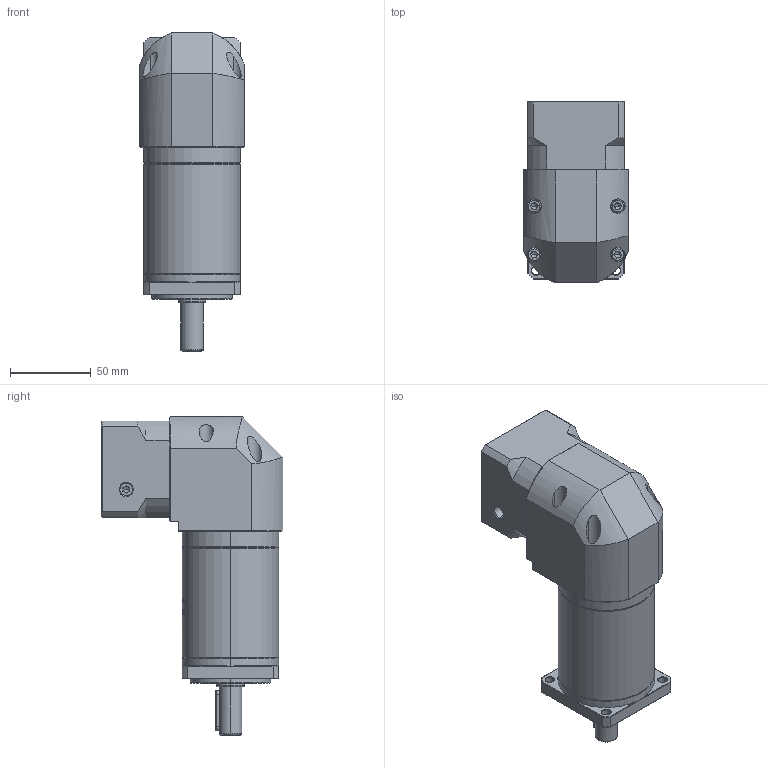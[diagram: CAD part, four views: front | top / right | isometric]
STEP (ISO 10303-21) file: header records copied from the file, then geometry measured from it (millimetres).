
FILE_DESCRIPTION (( 'STEP AP214' ), '1' );
FILE_NAME ('ZFR060-D14-L3-P2-11-50-70-M4.step', '2023-08-17T03:32:05', ( '' ), ( '' ), 'SwSTEP 2.0', 'SolidWorks 2016', '' );
FILE_SCHEMA (( 'AUTOMOTIVE_DESIGN' ));
Length unit declared in the file: millimetre
Products named in the file (1): ZFR060-D14-L3-P2-11-50-70-M4
Bounding box: 65 x 112.7 x 197.5 mm (x, y, z)
Volume: 636401.9 mm3; surface area: 84801.3 mm2
Topology: 5 solids, 6 shells, 1914 faces, 5131 edges, 3314 vertices
Faces by surface type: plane 847, cylinder 399, bspline 354, cone 288, torus 26
Entity records: 104139 total; most frequent: CARTESIAN_POINT 39349, ORIENTED_EDGE 10218, DIRECTION 7651, EDGE_CURVE 5109, VERTEX_POINT 3314, LINE 2593, VECTOR 2593, AXIS2_PLACEMENT_3D 2529
